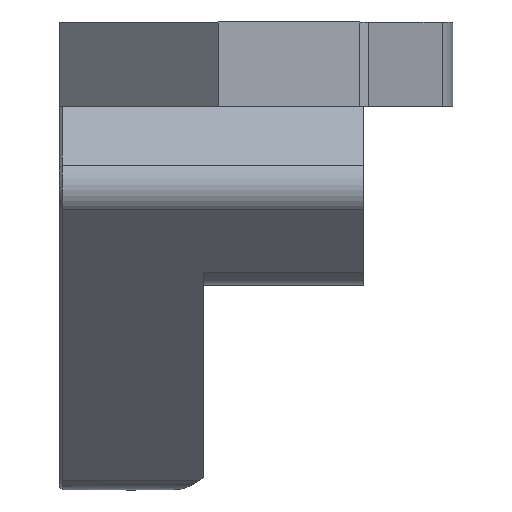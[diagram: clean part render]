
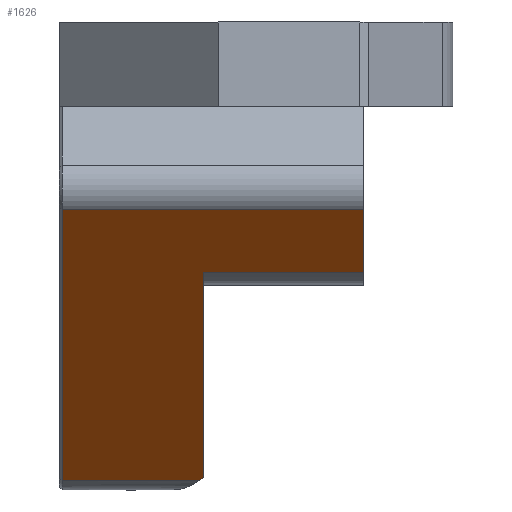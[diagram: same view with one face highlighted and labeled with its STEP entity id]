
A CAD part, left-side view. The second image highlights one B-rep face of the part: STEP entity #1626.
In plain terms, the highlighted planar face has unit normal (-0.707, 0, -0.707).
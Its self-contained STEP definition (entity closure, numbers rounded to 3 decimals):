
#16=ELLIPSE('',#1753,16.546,11.7);
#108=PLANE('',#1754);
#249=FACE_OUTER_BOUND('',#360,.T.);
#360=EDGE_LOOP('',(#1505,#1506,#1507,#1508,#1509,#1510,#1511));
#452=LINE('',#2552,#575);
#503=LINE('',#3421,#626);
#505=LINE('',#3424,#628);
#506=LINE('',#3427,#629);
#519=LINE('',#3455,#642);
#538=LINE('',#3518,#661);
#575=VECTOR('',#1844,10.);
#626=VECTOR('',#2033,10.);
#628=VECTOR('',#2037,10.);
#629=VECTOR('',#2040,10.);
#642=VECTOR('',#2071,10.);
#661=VECTOR('',#2128,10.);
#721=VERTEX_POINT('',#2549);
#722=VERTEX_POINT('',#2551);
#765=VERTEX_POINT('',#2935);
#768=VERTEX_POINT('',#2942);
#809=VERTEX_POINT('',#3414);
#810=VERTEX_POINT('',#3426);
#816=VERTEX_POINT('',#3454);
#883=EDGE_CURVE('',#722,#721,#452,.T.);
#1012=EDGE_CURVE('',#809,#768,#503,.T.);
#1014=EDGE_CURVE('',#768,#765,#505,.T.);
#1015=EDGE_CURVE('',#765,#810,#506,.T.);
#1029=EDGE_CURVE('',#810,#816,#519,.T.);
#1051=EDGE_CURVE('',#809,#722,#16,.T.);
#1052=EDGE_CURVE('',#816,#721,#538,.T.);
#1505=ORIENTED_EDGE('',*,*,#1052,.F.);
#1506=ORIENTED_EDGE('',*,*,#1029,.F.);
#1507=ORIENTED_EDGE('',*,*,#1015,.F.);
#1508=ORIENTED_EDGE('',*,*,#1014,.F.);
#1509=ORIENTED_EDGE('',*,*,#1012,.F.);
#1510=ORIENTED_EDGE('',*,*,#1051,.T.);
#1511=ORIENTED_EDGE('',*,*,#883,.T.);
#1626=ADVANCED_FACE('',(#249),#108,.T.);
#1753=AXIS2_PLACEMENT_3D('',#3516,#2124,#2125);
#1754=AXIS2_PLACEMENT_3D('',#3517,#2126,#2127);
#1844=DIRECTION('',(-0.707,0.,0.707));
#2033=DIRECTION('',(0.,1.,0.));
#2037=DIRECTION('',(-0.707,0.,0.707));
#2040=DIRECTION('',(0.,-1.,0.));
#2071=DIRECTION('',(0.707,0.,-0.707));
#2124=DIRECTION('center_axis',(0.707,0.,0.707));
#2125=DIRECTION('ref_axis',(0.707,0.,-0.707));
#2126=DIRECTION('center_axis',(-0.707,0.,
-0.707));
#2127=DIRECTION('ref_axis',(0.707,0.,-0.707));
#2128=DIRECTION('',(0.,1.,0.));
#2549=CARTESIAN_POINT('',(8.775,42.458,12.237));
#2551=CARTESIAN_POINT('',(22.698,42.458,-1.687));
#2552=CARTESIAN_POINT('',(6.651,42.458,14.36));
#2935=CARTESIAN_POINT('',(4.55,52.008,16.462));
#2942=CARTESIAN_POINT('',(22.898,52.008,-1.887));
#3414=CARTESIAN_POINT('',(22.898,42.745,-1.887));
#3421=CARTESIAN_POINT('',(22.898,50.261,-1.887));
#3424=CARTESIAN_POINT('',(10.867,52.008,10.145));
#3426=CARTESIAN_POINT('',(4.55,31.62,16.462));
#3427=CARTESIAN_POINT('',(4.55,40.858,16.462));
#3454=CARTESIAN_POINT('',(8.775,31.62,12.237));
#3455=CARTESIAN_POINT('',(10.867,31.62,10.145));
#3516=CARTESIAN_POINT('Origin',(32.397,35.913,-11.385));
#3517=CARTESIAN_POINT('Origin',(4.55,51.908,16.462));
#3518=CARTESIAN_POINT('',(8.775,46.636,12.237));
